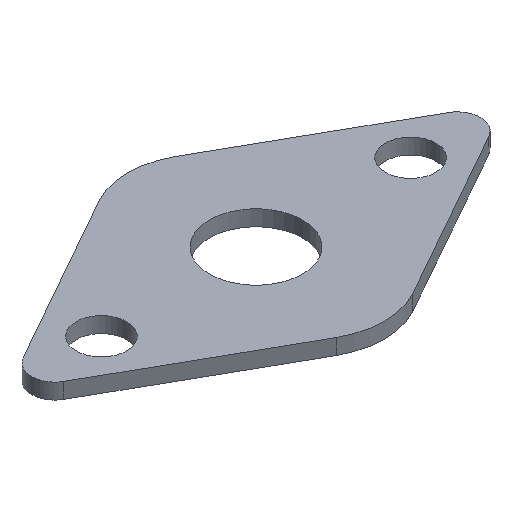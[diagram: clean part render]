
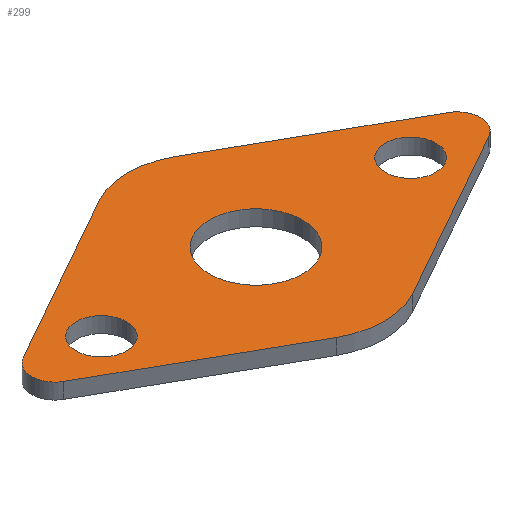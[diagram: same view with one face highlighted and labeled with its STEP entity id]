
A CAD part, isometric view. The second image highlights one B-rep face of the part: STEP entity #299.
In plain terms, the highlighted planar face has unit normal (0, 0, 1).
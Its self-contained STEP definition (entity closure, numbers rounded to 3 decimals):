
#1 = EDGE_CURVE ( 'NONE', #126, #504, #538, .T. ) ;
#6 = DIRECTION ( 'NONE',  ( 0., 0., 1. ) ) ;
#15 = CARTESIAN_POINT ( 'NONE',  ( 9.925, 0., 1. ) ) ;
#17 = CIRCLE ( 'NONE', #153, 1.625 ) ;
#19 = CARTESIAN_POINT ( 'NONE',  ( 11.55, 0., 1. ) ) ;
#23 = DIRECTION ( 'NONE',  ( -0.871, 0.491, 0. ) ) ;
#25 = ORIENTED_EDGE ( 'NONE', *, *, #403, .F. ) ;
#29 = DIRECTION ( 'NONE',  ( -1., 0., 0. ) ) ;
#38 = CARTESIAN_POINT ( 'NONE',  ( -8.3, 0., 1. ) ) ;
#40 = LINE ( 'NONE', #102, #53 ) ;
#43 = CARTESIAN_POINT ( 'NONE',  ( -9.925, 0., 1. ) ) ;
#47 = DIRECTION ( 'NONE',  ( 0., 0., 1. ) ) ;
#48 = DIRECTION ( 'NONE',  ( -0.871, -0.491, 0. ) ) ;
#49 = AXIS2_PLACEMENT_3D ( 'NONE', #566, #6, #240 ) ;
#51 = CARTESIAN_POINT ( 'NONE',  ( 3., 0., 1. ) ) ;
#53 = VECTOR ( 'NONE', #48, 1000. ) ;
#57 = CIRCLE ( 'NONE', #364, 1.5 ) ;
#61 = DIRECTION ( 'NONE',  ( 0., 0., 1. ) ) ;
#65 = DIRECTION ( 'NONE',  ( 1., 0., 0. ) ) ;
#66 = VERTEX_POINT ( 'NONE', #80 ) ;
#69 = AXIS2_PLACEMENT_3D ( 'NONE', #514, #556, #326 ) ;
#72 = AXIS2_PLACEMENT_3D ( 'NONE', #15, #61, #567 ) ;
#80 = CARTESIAN_POINT ( 'NONE',  ( -14.4, 0., 1. ) ) ;
#92 = ORIENTED_EDGE ( 'NONE', *, *, #171, .F. ) ;
#99 = CIRCLE ( 'NONE', #72, 1.625 ) ;
#102 = CARTESIAN_POINT ( 'NONE',  ( -2.454, 7.606, 1. ) ) ;
#107 = AXIS2_PLACEMENT_3D ( 'NONE', #473, #152, #206 ) ;
#112 = CARTESIAN_POINT ( 'NONE',  ( -12.9, 0., 1. ) ) ;
#124 = CARTESIAN_POINT ( 'NONE',  ( 2.454, 7.606, 1. ) ) ;
#126 = VERTEX_POINT ( 'NONE', #360 ) ;
#142 = CARTESIAN_POINT ( 'NONE',  ( -9.925, 0., 1. ) ) ;
#149 = EDGE_CURVE ( 'NONE', #384, #126, #291, .T. ) ;
#152 = DIRECTION ( 'NONE',  ( 0., 0., 1. ) ) ;
#153 = AXIS2_PLACEMENT_3D ( 'NONE', #468, #417, #564 ) ;
#154 = FACE_BOUND ( 'NONE', #390, .T. ) ;
#156 = ORIENTED_EDGE ( 'NONE', *, *, #361, .F. ) ;
#171 = EDGE_CURVE ( 'NONE', #525, #272, #242, .T. ) ;
#172 = VECTOR ( 'NONE', #276, 1000. ) ;
#179 = AXIS2_PLACEMENT_3D ( 'NONE', #112, #253, #65 ) ;
#183 = FACE_BOUND ( 'NONE', #323, .T. ) ;
#187 = CARTESIAN_POINT ( 'NONE',  ( -2.454, -7.606, 1. ) ) ;
#189 = LINE ( 'NONE', #187, #396 ) ;
#195 = CIRCLE ( 'NONE', #107, 5. ) ;
#196 = ORIENTED_EDGE ( 'NONE', *, *, #372, .T. ) ;
#199 = CARTESIAN_POINT ( 'NONE',  ( -3., 0., 1. ) ) ;
#206 = DIRECTION ( 'NONE',  ( -1., 0., 0. ) ) ;
#212 = EDGE_CURVE ( 'NONE', #366, #384, #568, .T. ) ;
#222 = ORIENTED_EDGE ( 'NONE', *, *, #1, .T. ) ;
#223 = CIRCLE ( 'NONE', #179, 1.5 ) ;
#224 = ORIENTED_EDGE ( 'NONE', *, *, #239, .F. ) ;
#226 = CARTESIAN_POINT ( 'NONE',  ( -2.454, -7.606, 1. ) ) ;
#227 = DIRECTION ( 'NONE',  ( 1., 0., 0. ) ) ;
#232 = DIRECTION ( 'NONE',  ( 1., 0., 0. ) ) ;
#239 = EDGE_CURVE ( 'NONE', #272, #525, #583, .T. ) ;
#240 = DIRECTION ( 'NONE',  ( 1., 0., 0. ) ) ;
#242 = CIRCLE ( 'NONE', #446, 1.625 ) ;
#244 = CARTESIAN_POINT ( 'NONE',  ( -11.55, 0., 1. ) ) ;
#246 = EDGE_CURVE ( 'NONE', #66, #314, #57, .T. ) ;
#253 = DIRECTION ( 'NONE',  ( 0., 0., 1. ) ) ;
#269 = DIRECTION ( 'NONE',  ( 0., 0., 1. ) ) ;
#272 = VERTEX_POINT ( 'NONE', #38 ) ;
#275 = EDGE_CURVE ( 'NONE', #314, #280, #189, .T. ) ;
#276 = DIRECTION ( 'NONE',  ( 0.871, 0.491, 0. ) ) ;
#277 = EDGE_CURVE ( 'NONE', #330, #375, #278, .T. ) ;
#278 = CIRCLE ( 'NONE', #453, 3. ) ;
#280 = VERTEX_POINT ( 'NONE', #226 ) ;
#281 = PLANE ( 'NONE',  #424 ) ;
#283 = CARTESIAN_POINT ( 'NONE',  ( 2.454, -7.606, 1. ) ) ;
#287 = ORIENTED_EDGE ( 'NONE', *, *, #491, .F. ) ;
#288 = DIRECTION ( 'NONE',  ( 0., 0., -1. ) ) ;
#291 = CIRCLE ( 'NONE', #356, 1.5 ) ;
#299 = ADVANCED_FACE ( 'NONE', ( #154, #183, #365, #537 ), #281, .F. ) ;
#301 = ORIENTED_EDGE ( 'NONE', *, *, #149, .T. ) ;
#309 = ORIENTED_EDGE ( 'NONE', *, *, #511, .T. ) ;
#314 = VERTEX_POINT ( 'NONE', #371 ) ;
#322 = DIRECTION ( 'NONE',  ( 1., 0., 0. ) ) ;
#323 = EDGE_LOOP ( 'NONE', ( #224, #92 ) ) ;
#326 = DIRECTION ( 'NONE',  ( -1., 0., 0. ) ) ;
#330 = VERTEX_POINT ( 'NONE', #199 ) ;
#332 = CARTESIAN_POINT ( 'NONE',  ( 8.3, 0., 1. ) ) ;
#343 = EDGE_CURVE ( 'NONE', #569, #562, #40, .T. ) ;
#351 = CARTESIAN_POINT ( 'NONE',  ( -13.636, 1.307, 1. ) ) ;
#356 = AXIS2_PLACEMENT_3D ( 'NONE', #452, #269, #29 ) ;
#358 = VERTEX_POINT ( 'NONE', #332 ) ;
#360 = CARTESIAN_POINT ( 'NONE',  ( 13.636, 1.307, 1. ) ) ;
#361 = EDGE_CURVE ( 'NONE', #375, #330, #385, .T. ) ;
#364 = AXIS2_PLACEMENT_3D ( 'NONE', #510, #507, #458 ) ;
#365 = FACE_BOUND ( 'NONE', #464, .T. ) ;
#366 = VERTEX_POINT ( 'NONE', #283 ) ;
#368 = DIRECTION ( 'NONE',  ( 0., 0., 1. ) ) ;
#371 = CARTESIAN_POINT ( 'NONE',  ( -13.636, -1.307, 1. ) ) ;
#372 = EDGE_CURVE ( 'NONE', #280, #366, #513, .T. ) ;
#373 = CARTESIAN_POINT ( 'NONE',  ( 13.636, -1.307, 1. ) ) ;
#375 = VERTEX_POINT ( 'NONE', #51 ) ;
#384 = VERTEX_POINT ( 'NONE', #373 ) ;
#385 = CIRCLE ( 'NONE', #49, 3. ) ;
#390 = EDGE_LOOP ( 'NONE', ( #25, #287 ) ) ;
#396 = VECTOR ( 'NONE', #549, 1000. ) ;
#400 = ORIENTED_EDGE ( 'NONE', *, *, #459, .T. ) ;
#403 = EDGE_CURVE ( 'NONE', #455, #358, #17, .T. ) ;
#411 = CARTESIAN_POINT ( 'NONE',  ( 0., 0., 1. ) ) ;
#414 = VECTOR ( 'NONE', #23, 1000. ) ;
#417 = DIRECTION ( 'NONE',  ( 0., 0., 1. ) ) ;
#424 = AXIS2_PLACEMENT_3D ( 'NONE', #471, #288, #559 ) ;
#430 = CARTESIAN_POINT ( 'NONE',  ( 2.454, 7.606, 1. ) ) ;
#438 = CARTESIAN_POINT ( 'NONE',  ( -2.454, 7.606, 1. ) ) ;
#446 = AXIS2_PLACEMENT_3D ( 'NONE', #142, #47, #322 ) ;
#452 = CARTESIAN_POINT ( 'NONE',  ( 12.9, 0., 1. ) ) ;
#453 = AXIS2_PLACEMENT_3D ( 'NONE', #411, #505, #227 ) ;
#455 = VERTEX_POINT ( 'NONE', #19 ) ;
#457 = ORIENTED_EDGE ( 'NONE', *, *, #275, .T. ) ;
#458 = DIRECTION ( 'NONE',  ( 1., 0., 0. ) ) ;
#459 = EDGE_CURVE ( 'NONE', #504, #569, #195, .T. ) ;
#464 = EDGE_LOOP ( 'NONE', ( #156, #530 ) ) ;
#468 = CARTESIAN_POINT ( 'NONE',  ( 9.925, 0., 1. ) ) ;
#471 = CARTESIAN_POINT ( 'NONE',  ( 12.9, 0., 1. ) ) ;
#473 = CARTESIAN_POINT ( 'NONE',  ( 0., 3.25, 1. ) ) ;
#480 = ORIENTED_EDGE ( 'NONE', *, *, #343, .T. ) ;
#491 = EDGE_CURVE ( 'NONE', #358, #455, #99, .T. ) ;
#504 = VERTEX_POINT ( 'NONE', #430 ) ;
#505 = DIRECTION ( 'NONE',  ( 0., 0., 1. ) ) ;
#507 = DIRECTION ( 'NONE',  ( 0., 0., 1. ) ) ;
#510 = CARTESIAN_POINT ( 'NONE',  ( -12.9, 0., 1. ) ) ;
#511 = EDGE_CURVE ( 'NONE', #562, #66, #223, .T. ) ;
#513 = CIRCLE ( 'NONE', #69, 5. ) ;
#514 = CARTESIAN_POINT ( 'NONE',  ( 0., -3.25, 1. ) ) ;
#517 = ORIENTED_EDGE ( 'NONE', *, *, #212, .T. ) ;
#525 = VERTEX_POINT ( 'NONE', #244 ) ;
#530 = ORIENTED_EDGE ( 'NONE', *, *, #277, .F. ) ;
#532 = EDGE_LOOP ( 'NONE', ( #301, #222, #400, #480, #309, #554, #457, #196, #517 ) ) ;
#537 = FACE_OUTER_BOUND ( 'NONE', #532, .T. ) ;
#538 = LINE ( 'NONE', #124, #414 ) ;
#541 = AXIS2_PLACEMENT_3D ( 'NONE', #43, #368, #232 ) ;
#549 = DIRECTION ( 'NONE',  ( 0.871, -0.491, 0. ) ) ;
#551 = CARTESIAN_POINT ( 'NONE',  ( 13.636, -1.307, 1. ) ) ;
#554 = ORIENTED_EDGE ( 'NONE', *, *, #246, .T. ) ;
#556 = DIRECTION ( 'NONE',  ( 0., 0., 1. ) ) ;
#559 = DIRECTION ( 'NONE',  ( -1., 0., 0. ) ) ;
#562 = VERTEX_POINT ( 'NONE', #351 ) ;
#564 = DIRECTION ( 'NONE',  ( -1., 0., 0. ) ) ;
#566 = CARTESIAN_POINT ( 'NONE',  ( 0., 0., 1. ) ) ;
#567 = DIRECTION ( 'NONE',  ( -1., 0., 0. ) ) ;
#568 = LINE ( 'NONE', #551, #172 ) ;
#569 = VERTEX_POINT ( 'NONE', #438 ) ;
#583 = CIRCLE ( 'NONE', #541, 1.625 ) ;
